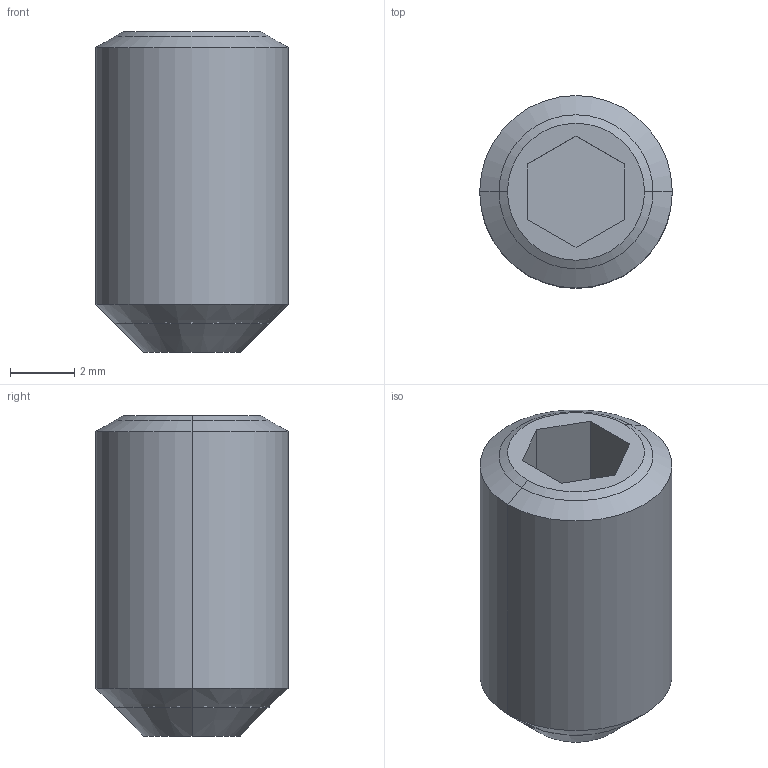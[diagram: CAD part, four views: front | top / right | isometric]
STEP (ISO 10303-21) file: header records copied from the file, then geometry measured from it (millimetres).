
FILE_DESCRIPTION((''),'2;1');
FILE_NAME('GEWINDESTIFT_DIN_916_M6X10','2022-06-13T16:20:31',('H041970'),(''),'CREO PARAMETRIC BY PTC INC, 2021284','CREO PARAMETRIC BY PTC INC, 2021284','');
FILE_SCHEMA(('CONFIG_CONTROL_DESIGN'));
Length unit declared in the file: millimetre
Products named in the file (1): GEWINDESTIFT_DIN_916_M6X10
Bounding box: 6 x 6 x 10 mm (x, y, z)
Volume: 234.1 mm3; surface area: 389.6 mm2
Topology: 1 solids, 2 shells, 17 faces, 41 edges, 30 vertices
Faces by surface type: plane 9, cone 4, cylinder 4
Entity records: 534 total; most frequent: DIRECTION 89, CARTESIAN_POINT 83, ORIENTED_EDGE 72, EDGE_CURVE 38, AXIS2_PLACEMENT_3D 30, VECTOR 29, LINE 29, VERTEX_POINT 24
